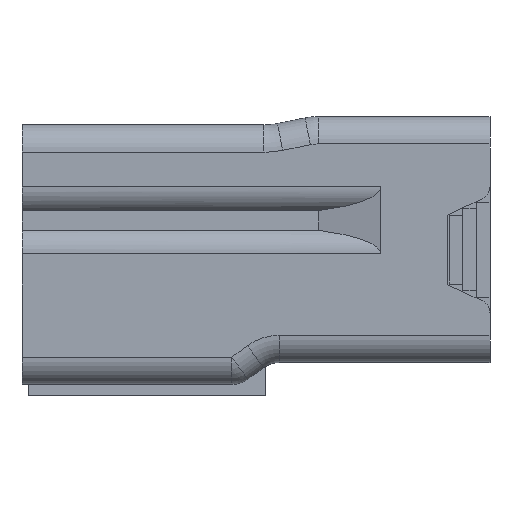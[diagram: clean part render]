
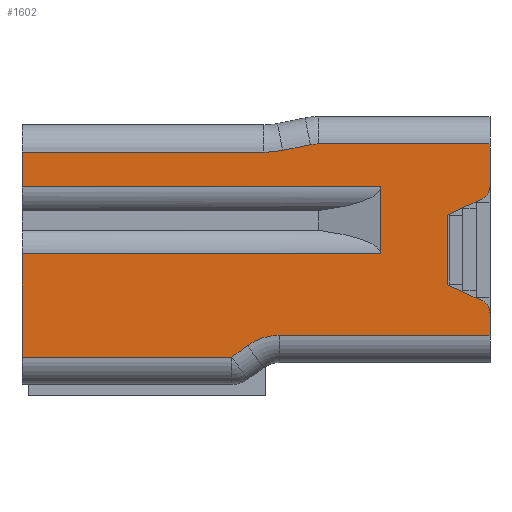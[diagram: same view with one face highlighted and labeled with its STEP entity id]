
A CAD part, front view. The second image highlights one B-rep face of the part: STEP entity #1602.
In plain terms, the highlighted planar face has unit normal (0, -1, 0).
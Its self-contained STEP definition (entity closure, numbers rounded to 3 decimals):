
#509=CARTESIAN_POINT('Vertex',(18.25,-11.05,-4.636)) ;
#512=CARTESIAN_POINT('Line Origine',(18.25,-11.05,-5.443)) ;
#516=CARTESIAN_POINT('Vertex',(18.25,-11.05,-6.25)) ;
#677=CARTESIAN_POINT('Vertex',(18.25,-11.05,7.75)) ;
#680=CARTESIAN_POINT('Line Origine',(18.25,-11.05,6.193)) ;
#684=CARTESIAN_POINT('Vertex',(18.25,-11.05,4.636)) ;
#1368=CARTESIAN_POINT('Vertex',(1.705,-11.05,7.15)) ;
#1371=CARTESIAN_POINT('Axis2P3D Location',(1.705,-11.05,14.15)) ;
#1375=CARTESIAN_POINT('Vertex',(3.078,-11.05,7.286)) ;
#1395=CARTESIAN_POINT('Line Origine',(1.125,-11.05,6.895)) ;
#1399=CARTESIAN_POINT('Vertex',(5.107,-11.05,7.692)) ;
#1426=CARTESIAN_POINT('Axis2P3D Location',(5.695,-11.05,4.75)) ;
#1430=CARTESIAN_POINT('Vertex',(5.695,-11.05,7.75)) ;
#1455=CARTESIAN_POINT('Line Origine',(1.125,-11.05,7.75)) ;
#1467=CARTESIAN_POINT('Axis2P3D Location',(0.,-11.05,9.75)) ;
#1472=CARTESIAN_POINT('Line Origine',(16.412,-11.05,-3.14)) ;
#1476=CARTESIAN_POINT('Vertex',(17.674,-11.05,-3.73)) ;
#1478=CARTESIAN_POINT('Vertex',(15.15,-11.05,-2.55)) ;
#1481=CARTESIAN_POINT('Line Origine',(15.15,-11.05,0.)) ;
#1485=CARTESIAN_POINT('Vertex',(15.15,-11.05,2.55)) ;
#1488=CARTESIAN_POINT('Line Origine',(16.412,-11.05,3.14)) ;
#1492=CARTESIAN_POINT('Vertex',(17.674,-11.05,3.73)) ;
#1495=CARTESIAN_POINT('Axis2P3D Location',(17.25,-11.05,4.636)) ;
#1500=CARTESIAN_POINT('Line Origine',(-7.148,-11.05,7.15)) ;
#1504=CARTESIAN_POINT('Vertex',(-16.,-11.05,7.15)) ;
#1507=CARTESIAN_POINT('Line Origine',(-16.,-11.05,5.875)) ;
#1511=CARTESIAN_POINT('Vertex',(-16.,-11.05,4.6)) ;
#1514=CARTESIAN_POINT('Line Origine',(-2.875,-11.05,4.6)) ;
#1518=CARTESIAN_POINT('Vertex',(10.25,-11.05,4.6)) ;
#1521=CARTESIAN_POINT('Line Origine',(10.25,-11.05,2.15)) ;
#1525=CARTESIAN_POINT('Vertex',(10.25,-11.05,-0.3)) ;
#1528=CARTESIAN_POINT('Line Origine',(-2.875,-11.05,-0.3)) ;
#1532=CARTESIAN_POINT('Vertex',(-16.,-11.05,-0.3)) ;
#1535=CARTESIAN_POINT('Line Origine',(-16.,-11.05,-4.075)) ;
#1539=CARTESIAN_POINT('Vertex',(-16.,-11.05,-7.85)) ;
#1542=CARTESIAN_POINT('Line Origine',(-8.325,-11.05,-7.85)) ;
#1546=CARTESIAN_POINT('Vertex',(-0.65,-11.05,-7.85)) ;
#1549=CARTESIAN_POINT('Line Origine',(-0.076,-11.05,-7.433)) ;
#1553=CARTESIAN_POINT('Vertex',(0.498,-11.05,-7.015)) ;
#1557=CARTESIAN_POINT('Control Point',(0.498,-11.05,-7.015)) ;
#1558=CARTESIAN_POINT('Control Point',(0.783,-11.05,-6.807)) ;
#1559=CARTESIAN_POINT('Control Point',(1.091,-11.05,-6.631)) ;
#1560=CARTESIAN_POINT('Control Point',(1.418,-11.05,-6.49)) ;
#1561=CARTESIAN_POINT('Control Point',(1.902,-11.05,-6.342)) ;
#1562=CARTESIAN_POINT('Control Point',(2.401,-11.05,-6.271)) ;
#1563=CARTESIAN_POINT('Control Point',(2.55,-11.05,-6.257)) ;
#1564=CARTESIAN_POINT('Control Point',(2.7,-11.05,-6.25)) ;
#1565=CARTESIAN_POINT('Control Point',(2.85,-11.05,-6.25)) ;
#1566=CARTESIAN_POINT('Vertex',(2.85,-11.05,-6.25)) ;
#1569=CARTESIAN_POINT('Line Origine',(10.55,-11.05,-6.25)) ;
#1574=CARTESIAN_POINT('Axis2P3D Location',(17.25,-11.05,-4.636)) ;
#513=DIRECTION('Vector Direction',(0.,0.,-1.)) ;
#681=DIRECTION('Vector Direction',(0.,0.,-1.)) ;
#1372=DIRECTION('Axis2P3D Direction',(0.,-1.,0.)) ;
#1396=DIRECTION('Vector Direction',(-0.981,0.,-0.196)) ;
#1427=DIRECTION('Axis2P3D Direction',(-0.,-1.,0.)) ;
#1456=DIRECTION('Vector Direction',(1.,0.,0.)) ;
#1468=DIRECTION('Axis2P3D Direction',(0.,-1.,0.)) ;
#1469=DIRECTION('Axis2P3D XDirection',(0.,0.,-1.)) ;
#1473=DIRECTION('Vector Direction',(-0.906,0.,0.424)) ;
#1482=DIRECTION('Vector Direction',(0.,0.,-1.)) ;
#1489=DIRECTION('Vector Direction',(-0.906,0.,-0.424)) ;
#1496=DIRECTION('Axis2P3D Direction',(0.,-1.,0.)) ;
#1501=DIRECTION('Vector Direction',(1.,0.,0.)) ;
#1508=DIRECTION('Vector Direction',(0.,0.,1.)) ;
#1515=DIRECTION('Vector Direction',(-1.,0.,0.)) ;
#1522=DIRECTION('Vector Direction',(0.,0.,-1.)) ;
#1529=DIRECTION('Vector Direction',(-1.,0.,0.)) ;
#1536=DIRECTION('Vector Direction',(0.,0.,1.)) ;
#1543=DIRECTION('Vector Direction',(1.,0.,0.)) ;
#1550=DIRECTION('Vector Direction',(0.809,0.,0.588)) ;
#1570=DIRECTION('Vector Direction',(-1.,0.,0.)) ;
#1575=DIRECTION('Axis2P3D Direction',(0.,-1.,0.)) ;
#1373=AXIS2_PLACEMENT_3D('Circle Axis2P3D',#1371,#1372,$) ;
#1428=AXIS2_PLACEMENT_3D('Circle Axis2P3D',#1426,#1427,$) ;
#1470=AXIS2_PLACEMENT_3D('Plane Axis2P3D',#1467,#1468,#1469) ;
#1497=AXIS2_PLACEMENT_3D('Circle Axis2P3D',#1495,#1496,$) ;
#1576=AXIS2_PLACEMENT_3D('Circle Axis2P3D',#1574,#1575,$) ;
#1580=ORIENTED_EDGE('',*,*,#1480,.T.) ;
#1581=ORIENTED_EDGE('',*,*,#1487,.F.) ;
#1582=ORIENTED_EDGE('',*,*,#1494,.F.) ;
#1583=ORIENTED_EDGE('',*,*,#1499,.F.) ;
#1584=ORIENTED_EDGE('',*,*,#686,.F.) ;
#1585=ORIENTED_EDGE('',*,*,#1459,.F.) ;
#1586=ORIENTED_EDGE('',*,*,#1432,.F.) ;
#1587=ORIENTED_EDGE('',*,*,#1401,.F.) ;
#1588=ORIENTED_EDGE('',*,*,#1377,.F.) ;
#1589=ORIENTED_EDGE('',*,*,#1506,.F.) ;
#1590=ORIENTED_EDGE('',*,*,#1513,.F.) ;
#1591=ORIENTED_EDGE('',*,*,#1520,.F.) ;
#1592=ORIENTED_EDGE('',*,*,#1527,.T.) ;
#1593=ORIENTED_EDGE('',*,*,#1534,.T.) ;
#1594=ORIENTED_EDGE('',*,*,#1541,.F.) ;
#1595=ORIENTED_EDGE('',*,*,#1548,.T.) ;
#1596=ORIENTED_EDGE('',*,*,#1555,.T.) ;
#1597=ORIENTED_EDGE('',*,*,#1568,.T.) ;
#1598=ORIENTED_EDGE('',*,*,#1573,.T.) ;
#1599=ORIENTED_EDGE('',*,*,#518,.F.) ;
#1600=ORIENTED_EDGE('',*,*,#1578,.F.) ;
#514=VECTOR('Line Direction',#513,1.) ;
#682=VECTOR('Line Direction',#681,1.) ;
#1397=VECTOR('Line Direction',#1396,1.) ;
#1457=VECTOR('Line Direction',#1456,1.) ;
#1474=VECTOR('Line Direction',#1473,1.) ;
#1483=VECTOR('Line Direction',#1482,1.) ;
#1490=VECTOR('Line Direction',#1489,1.) ;
#1502=VECTOR('Line Direction',#1501,1.) ;
#1509=VECTOR('Line Direction',#1508,1.) ;
#1516=VECTOR('Line Direction',#1515,1.) ;
#1523=VECTOR('Line Direction',#1522,1.) ;
#1530=VECTOR('Line Direction',#1529,1.) ;
#1537=VECTOR('Line Direction',#1536,1.) ;
#1544=VECTOR('Line Direction',#1543,1.) ;
#1551=VECTOR('Line Direction',#1550,1.) ;
#1571=VECTOR('Line Direction',#1570,1.) ;
#1602=ADVANCED_FACE('\X2\FF8EFF9EFF83FF9EFF68FF70\X0\.3',(#1601),#1471,.T.) ;
#1556=B_SPLINE_CURVE_WITH_KNOTS('',5,(#1557,#1558,#1559,#1560,#1561,#1562,#1563,#1564,#1565),.UNSPECIFIED.,.F.,.U.,(6,3,6),(8.429,10.402,11.241),.UNSPECIFIED.) ;
#1374=CIRCLE('generated circle',#1373,7.) ;
#1429=CIRCLE('generated circle',#1428,3.) ;
#1498=CIRCLE('generated circle',#1497,1.) ;
#1577=CIRCLE('generated circle',#1576,1.) ;
#518=EDGE_CURVE('',#510,#517,#515,.T.) ;
#686=EDGE_CURVE('',#678,#685,#683,.T.) ;
#1377=EDGE_CURVE('',#1369,#1376,#1374,.T.) ;
#1401=EDGE_CURVE('',#1376,#1400,#1398,.F.) ;
#1432=EDGE_CURVE('',#1400,#1431,#1429,.F.) ;
#1459=EDGE_CURVE('',#1431,#678,#1458,.T.) ;
#1480=EDGE_CURVE('',#1477,#1479,#1475,.T.) ;
#1487=EDGE_CURVE('',#1486,#1479,#1484,.T.) ;
#1494=EDGE_CURVE('',#1493,#1486,#1491,.T.) ;
#1499=EDGE_CURVE('',#685,#1493,#1498,.F.) ;
#1506=EDGE_CURVE('',#1505,#1369,#1503,.T.) ;
#1513=EDGE_CURVE('',#1512,#1505,#1510,.T.) ;
#1520=EDGE_CURVE('',#1519,#1512,#1517,.T.) ;
#1527=EDGE_CURVE('',#1519,#1526,#1524,.T.) ;
#1534=EDGE_CURVE('',#1526,#1533,#1531,.T.) ;
#1541=EDGE_CURVE('',#1540,#1533,#1538,.T.) ;
#1548=EDGE_CURVE('',#1540,#1547,#1545,.T.) ;
#1555=EDGE_CURVE('',#1547,#1554,#1552,.T.) ;
#1568=EDGE_CURVE('',#1554,#1567,#1556,.T.) ;
#1573=EDGE_CURVE('',#1567,#517,#1572,.F.) ;
#1578=EDGE_CURVE('',#1477,#510,#1577,.F.) ;
#1579=EDGE_LOOP('',(#1580,#1581,#1582,#1583,#1584,#1585,#1586,#1587,#1588,#1589,#1590,#1591,#1592,#1593,#1594,#1595,#1596,#1597,#1598,#1599,#1600)) ;
#1601=FACE_OUTER_BOUND('',#1579,.T.) ;
#515=LINE('Line',#512,#514) ;
#683=LINE('Line',#680,#682) ;
#1398=LINE('Line',#1395,#1397) ;
#1458=LINE('Line',#1455,#1457) ;
#1475=LINE('Line',#1472,#1474) ;
#1484=LINE('Line',#1481,#1483) ;
#1491=LINE('Line',#1488,#1490) ;
#1503=LINE('Line',#1500,#1502) ;
#1510=LINE('Line',#1507,#1509) ;
#1517=LINE('Line',#1514,#1516) ;
#1524=LINE('Line',#1521,#1523) ;
#1531=LINE('Line',#1528,#1530) ;
#1538=LINE('Line',#1535,#1537) ;
#1545=LINE('Line',#1542,#1544) ;
#1552=LINE('Line',#1549,#1551) ;
#1572=LINE('Line',#1569,#1571) ;
#1471=PLANE('',#1470) ;
#510=VERTEX_POINT('',#509) ;
#517=VERTEX_POINT('',#516) ;
#678=VERTEX_POINT('',#677) ;
#685=VERTEX_POINT('',#684) ;
#1369=VERTEX_POINT('',#1368) ;
#1376=VERTEX_POINT('',#1375) ;
#1400=VERTEX_POINT('',#1399) ;
#1431=VERTEX_POINT('',#1430) ;
#1477=VERTEX_POINT('',#1476) ;
#1479=VERTEX_POINT('',#1478) ;
#1486=VERTEX_POINT('',#1485) ;
#1493=VERTEX_POINT('',#1492) ;
#1505=VERTEX_POINT('',#1504) ;
#1512=VERTEX_POINT('',#1511) ;
#1519=VERTEX_POINT('',#1518) ;
#1526=VERTEX_POINT('',#1525) ;
#1533=VERTEX_POINT('',#1532) ;
#1540=VERTEX_POINT('',#1539) ;
#1547=VERTEX_POINT('',#1546) ;
#1554=VERTEX_POINT('',#1553) ;
#1567=VERTEX_POINT('',#1566) ;
